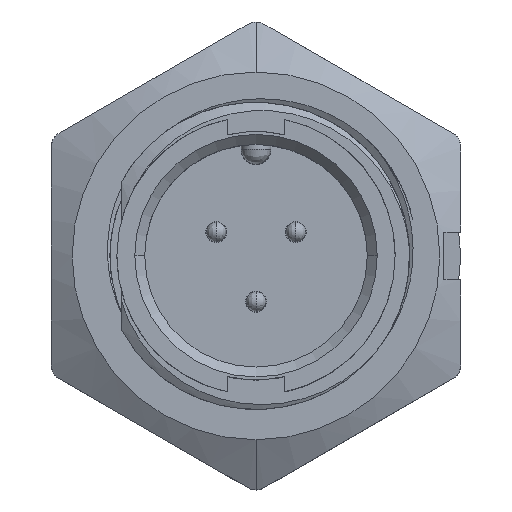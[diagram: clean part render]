
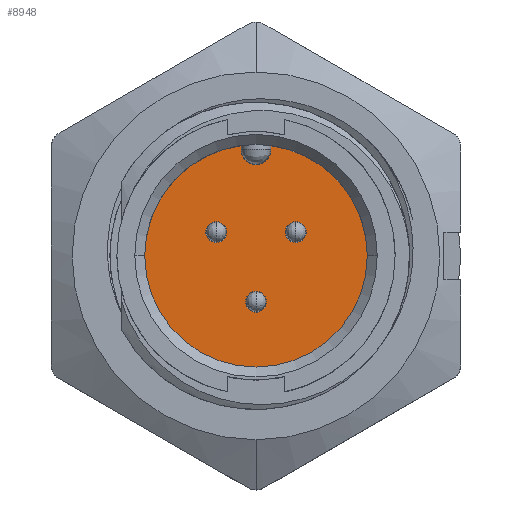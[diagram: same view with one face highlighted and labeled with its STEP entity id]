
A CAD part, top view. The second image highlights one B-rep face of the part: STEP entity #8948.
In plain terms, the highlighted planar face has unit normal (0, 0, 1).
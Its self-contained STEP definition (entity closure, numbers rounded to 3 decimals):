
#29 = EDGE_CURVE ( 'NONE', #11535, #5673, #4017, .T. ) ;
#95 = ORIENTED_EDGE ( 'NONE', *, *, #3648, .T. ) ;
#190 = DIRECTION ( 'NONE',  ( 0., 0., -1. ) ) ;
#237 = DIRECTION ( 'NONE',  ( 0., 0., 1. ) ) ;
#605 = VERTEX_POINT ( 'NONE', #4173 ) ;
#641 = VERTEX_POINT ( 'NONE', #1704 ) ;
#759 = DIRECTION ( 'NONE',  ( 0., 0., -1. ) ) ;
#984 = EDGE_CURVE ( 'NONE', #2376, #8671, #11011, .T. ) ;
#989 = AXIS2_PLACEMENT_3D ( 'NONE', #8202, #4374, #9247 ) ;
#1227 = FACE_BOUND ( 'NONE', #11890, .T. ) ;
#1355 = PLANE ( 'NONE',  #11824 ) ;
#1414 = CIRCLE ( 'NONE', #989, 0.525 ) ;
#1489 = CARTESIAN_POINT ( 'NONE',  ( 2., 1.2, -9. ) ) ;
#1552 = DIRECTION ( 'NONE',  ( 1., 0., 0. ) ) ;
#1564 = EDGE_LOOP ( 'NONE', ( #5101, #95 ) ) ;
#1608 = CARTESIAN_POINT ( 'NONE',  ( 0., -2.3, -9. ) ) ;
#1685 = CARTESIAN_POINT ( 'NONE',  ( 0., -2.3, -9. ) ) ;
#1704 = CARTESIAN_POINT ( 'NONE',  ( -0.75, 5.35, -9. ) ) ;
#1844 = ORIENTED_EDGE ( 'NONE', *, *, #12163, .T. ) ;
#2002 = CARTESIAN_POINT ( 'NONE',  ( 0.75, -0.028, -9. ) ) ;
#2291 = AXIS2_PLACEMENT_3D ( 'NONE', #3882, #7710, #8754 ) ;
#2345 = ORIENTED_EDGE ( 'NONE', *, *, #11574, .T. ) ;
#2376 = VERTEX_POINT ( 'NONE', #9591 ) ;
#2483 = CIRCLE ( 'NONE', #3110, 0.525 ) ;
#2886 = VERTEX_POINT ( 'NONE', #7420 ) ;
#2901 = AXIS2_PLACEMENT_3D ( 'NONE', #1685, #759, #12536 ) ;
#2940 = VERTEX_POINT ( 'NONE', #5476 ) ;
#3110 = AXIS2_PLACEMENT_3D ( 'NONE', #1608, #5507, #7389 ) ;
#3330 = CIRCLE ( 'NONE', #2291, 5.6 ) ;
#3464 = VERTEX_POINT ( 'NONE', #5986 ) ;
#3648 = EDGE_CURVE ( 'NONE', #10360, #605, #3871, .T. ) ;
#3867 = DIRECTION ( 'NONE',  ( 1., 0., 0. ) ) ;
#3871 = CIRCLE ( 'NONE', #12790, 0.525 ) ;
#3882 = CARTESIAN_POINT ( 'NONE',  ( 0., 0., -9. ) ) ;
#4017 = LINE ( 'NONE', #2002, #12033 ) ;
#4173 = CARTESIAN_POINT ( 'NONE',  ( 2.525, 1.2, -9. ) ) ;
#4204 = DIRECTION ( 'NONE',  ( 1., 0., 0. ) ) ;
#4264 = CARTESIAN_POINT ( 'NONE',  ( 0., -0.028, -9. ) ) ;
#4374 = DIRECTION ( 'NONE',  ( 0., 0., -1. ) ) ;
#4403 = EDGE_CURVE ( 'NONE', #641, #3464, #12124, .T. ) ;
#4504 = CARTESIAN_POINT ( 'NONE',  ( 1.475, 1.2, -9. ) ) ;
#4561 = AXIS2_PLACEMENT_3D ( 'NONE', #6761, #4616, #6828 ) ;
#4616 = DIRECTION ( 'NONE',  ( 0., 0., 1. ) ) ;
#4708 = AXIS2_PLACEMENT_3D ( 'NONE', #6016, #9769, #11653 ) ;
#4813 = CARTESIAN_POINT ( 'NONE',  ( 0.75, 5.55, -9. ) ) ;
#5101 = ORIENTED_EDGE ( 'NONE', *, *, #9086, .T. ) ;
#5147 = ORIENTED_EDGE ( 'NONE', *, *, #4403, .T. ) ;
#5188 = FACE_OUTER_BOUND ( 'NONE', #8655, .T. ) ;
#5191 = DIRECTION ( 'NONE',  ( 0., -1., 0. ) ) ;
#5205 = DIRECTION ( 'NONE',  ( 1., 0., 0. ) ) ;
#5454 = DIRECTION ( 'NONE',  ( 0., 0., -1. ) ) ;
#5466 = VERTEX_POINT ( 'NONE', #12097 ) ;
#5476 = CARTESIAN_POINT ( 'NONE',  ( -1.475, 1.2, -9. ) ) ;
#5507 = DIRECTION ( 'NONE',  ( 0., 0., -1. ) ) ;
#5628 = ORIENTED_EDGE ( 'NONE', *, *, #984, .T. ) ;
#5673 = VERTEX_POINT ( 'NONE', #10404 ) ;
#5731 = AXIS2_PLACEMENT_3D ( 'NONE', #10991, #190, #5205 ) ;
#5847 = DIRECTION ( 'NONE',  ( 0., 0., 1. ) ) ;
#5986 = CARTESIAN_POINT ( 'NONE',  ( -0.75, 5.55, -9. ) ) ;
#6016 = CARTESIAN_POINT ( 'NONE',  ( -2., 1.2, -9. ) ) ;
#6113 = EDGE_CURVE ( 'NONE', #2940, #5466, #1414, .T. ) ;
#6174 = ORIENTED_EDGE ( 'NONE', *, *, #8840, .T. ) ;
#6389 = VECTOR ( 'NONE', #11136, 1000. ) ;
#6536 = ORIENTED_EDGE ( 'NONE', *, *, #7000, .T. ) ;
#6761 = CARTESIAN_POINT ( 'NONE',  ( 0., 0., -9. ) ) ;
#6828 = DIRECTION ( 'NONE',  ( 1., 0., 0. ) ) ;
#6864 = DIRECTION ( 'NONE',  ( 0., 0., -1. ) ) ;
#6876 = CARTESIAN_POINT ( 'NONE',  ( 0., 0., -9. ) ) ;
#7000 = EDGE_CURVE ( 'NONE', #8671, #11535, #3330, .T. ) ;
#7206 = EDGE_CURVE ( 'NONE', #3464, #2376, #11012, .T. ) ;
#7389 = DIRECTION ( 'NONE',  ( 1., 0., 0. ) ) ;
#7420 = CARTESIAN_POINT ( 'NONE',  ( 0.525, -2.3, -9. ) ) ;
#7625 = ORIENTED_EDGE ( 'NONE', *, *, #6113, .T. ) ;
#7710 = DIRECTION ( 'NONE',  ( 0., 0., 1. ) ) ;
#7878 = AXIS2_PLACEMENT_3D ( 'NONE', #9710, #6864, #3867 ) ;
#8035 = CIRCLE ( 'NONE', #4708, 0.525 ) ;
#8167 = EDGE_LOOP ( 'NONE', ( #6174, #11038 ) ) ;
#8202 = CARTESIAN_POINT ( 'NONE',  ( -2., 1.2, -9. ) ) ;
#8297 = ORIENTED_EDGE ( 'NONE', *, *, #29, .T. ) ;
#8655 = EDGE_LOOP ( 'NONE', ( #8297, #2345, #5147, #10717, #5628, #6536 ) ) ;
#8671 = VERTEX_POINT ( 'NONE', #11430 ) ;
#8754 = DIRECTION ( 'NONE',  ( 1., 0., 0. ) ) ;
#8840 = EDGE_CURVE ( 'NONE', #2886, #11372, #9337, .T. ) ;
#8948 = ADVANCED_FACE ( 'NONE', ( #10055, #11286, #1227, #5188 ), #1355, .T. ) ;
#8976 = EDGE_CURVE ( 'NONE', #11372, #2886, #2483, .T. ) ;
#9086 = EDGE_CURVE ( 'NONE', #605, #10360, #10377, .T. ) ;
#9247 = DIRECTION ( 'NONE',  ( 1., 0., 0. ) ) ;
#9337 = CIRCLE ( 'NONE', #2901, 0.525 ) ;
#9462 = CIRCLE ( 'NONE', #5731, 0.75 ) ;
#9543 = AXIS2_PLACEMENT_3D ( 'NONE', #6876, #5847, #10839 ) ;
#9591 = CARTESIAN_POINT ( 'NONE',  ( -5.6, 0., -9. ) ) ;
#9710 = CARTESIAN_POINT ( 'NONE',  ( 2., 1.2, -9. ) ) ;
#9769 = DIRECTION ( 'NONE',  ( 0., 0., -1. ) ) ;
#10055 = FACE_BOUND ( 'NONE', #8167, .T. ) ;
#10360 = VERTEX_POINT ( 'NONE', #4504 ) ;
#10377 = CIRCLE ( 'NONE', #7878, 0.525 ) ;
#10404 = CARTESIAN_POINT ( 'NONE',  ( 0.75, 5.35, -9. ) ) ;
#10717 = ORIENTED_EDGE ( 'NONE', *, *, #7206, .T. ) ;
#10839 = DIRECTION ( 'NONE',  ( 1., 0., 0. ) ) ;
#10991 = CARTESIAN_POINT ( 'NONE',  ( 0., 5.35, -9. ) ) ;
#11011 = CIRCLE ( 'NONE', #4561, 5.6 ) ;
#11012 = CIRCLE ( 'NONE', #9543, 5.6 ) ;
#11038 = ORIENTED_EDGE ( 'NONE', *, *, #8976, .T. ) ;
#11136 = DIRECTION ( 'NONE',  ( 0., 1., 0. ) ) ;
#11286 = FACE_BOUND ( 'NONE', #1564, .T. ) ;
#11372 = VERTEX_POINT ( 'NONE', #12822 ) ;
#11430 = CARTESIAN_POINT ( 'NONE',  ( 5.6, 0., -9. ) ) ;
#11535 = VERTEX_POINT ( 'NONE', #4813 ) ;
#11574 = EDGE_CURVE ( 'NONE', #5673, #641, #9462, .T. ) ;
#11653 = DIRECTION ( 'NONE',  ( 1., 0., 0. ) ) ;
#11824 = AXIS2_PLACEMENT_3D ( 'NONE', #4264, #237, #4204 ) ;
#11890 = EDGE_LOOP ( 'NONE', ( #7625, #1844 ) ) ;
#12033 = VECTOR ( 'NONE', #5191, 1000. ) ;
#12097 = CARTESIAN_POINT ( 'NONE',  ( -2.525, 1.2, -9. ) ) ;
#12124 = LINE ( 'NONE', #12182, #6389 ) ;
#12163 = EDGE_CURVE ( 'NONE', #5466, #2940, #8035, .T. ) ;
#12182 = CARTESIAN_POINT ( 'NONE',  ( -0.75, -0.028, -9. ) ) ;
#12536 = DIRECTION ( 'NONE',  ( 1., 0., 0. ) ) ;
#12790 = AXIS2_PLACEMENT_3D ( 'NONE', #1489, #5454, #1552 ) ;
#12822 = CARTESIAN_POINT ( 'NONE',  ( -0.525, -2.3, -9. ) ) ;
